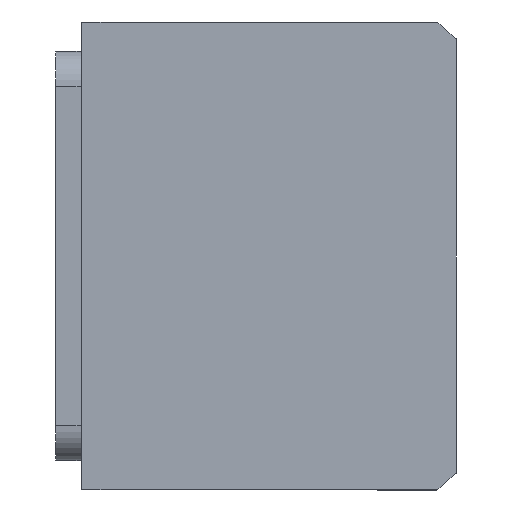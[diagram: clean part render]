
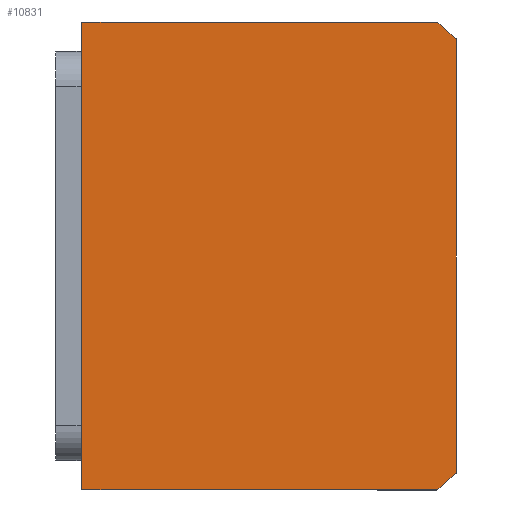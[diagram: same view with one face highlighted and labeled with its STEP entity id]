
A CAD part, front view. The second image highlights one B-rep face of the part: STEP entity #10831.
In plain terms, the highlighted planar face has unit normal (0, -1, 0) as drawn and (0, 0, -1) by its records, which use the part's own axes.
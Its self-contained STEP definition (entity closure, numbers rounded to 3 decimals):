
#429 = CARTESIAN_POINT ( 'NONE',  ( -40., -11.507, 0. ) ) ;
#490 = EDGE_CURVE ( 'NONE', #7301, #11109, #768, .T. ) ;
#610 = CARTESIAN_POINT ( 'NONE',  ( -37.094, -75.507, 0. ) ) ;
#671 = DIRECTION ( 'NONE',  ( 0., -1., 0. ) ) ;
#768 = CIRCLE ( 'NONE', #3388, 51. ) ;
#781 = VECTOR ( 'NONE', #4359, 1000. ) ;
#832 = ORIENTED_EDGE ( 'NONE', *, *, #490, .F. ) ;
#866 = LINE ( 'NONE', #13374, #11486 ) ;
#1000 = ORIENTED_EDGE ( 'NONE', *, *, #4231, .F. ) ;
#1372 = DIRECTION ( 'NONE',  ( 0., 0., 1. ) ) ;
#1423 = FACE_OUTER_BOUND ( 'NONE', #12745, .T. ) ;
#1679 = VERTEX_POINT ( 'NONE', #4987 ) ;
#2814 = CARTESIAN_POINT ( 'NONE',  ( -40., -75.507, 0. ) ) ;
#3280 = CARTESIAN_POINT ( 'NONE',  ( -40., -11.507, 0. ) ) ;
#3388 = AXIS2_PLACEMENT_3D ( 'NONE', #10523, #4395, #4353 ) ;
#3651 = ORIENTED_EDGE ( 'NONE', *, *, #5692, .F. ) ;
#4231 = EDGE_CURVE ( 'NONE', #6137, #7301, #866, .T. ) ;
#4353 = DIRECTION ( 'NONE',  ( 1., 0., 0. ) ) ;
#4359 = DIRECTION ( 'NONE',  ( -1., 0., 0. ) ) ;
#4395 = DIRECTION ( 'NONE',  ( 0., 0., 1. ) ) ;
#4450 = VERTEX_POINT ( 'NONE', #10770 ) ;
#4796 = CARTESIAN_POINT ( 'NONE',  ( 40., -11.507, 0. ) ) ;
#4987 = CARTESIAN_POINT ( 'NONE',  ( 37.094, -75.507, 0. ) ) ;
#5253 = LINE ( 'NONE', #2814, #13380 ) ;
#5307 = ORIENTED_EDGE ( 'NONE', *, *, #6480, .F. ) ;
#5525 = CARTESIAN_POINT ( 'NONE',  ( 0., -40.507, 0. ) ) ;
#5692 = EDGE_CURVE ( 'NONE', #4450, #8859, #12582, .T. ) ;
#5701 = CARTESIAN_POINT ( 'NONE',  ( -40., -72.145, 0. ) ) ;
#6137 = VERTEX_POINT ( 'NONE', #429 ) ;
#6447 = LINE ( 'NONE', #3280, #781 ) ;
#6480 = EDGE_CURVE ( 'NONE', #8859, #6137, #6447, .T. ) ;
#6593 = DIRECTION ( 'NONE',  ( 1., 0., 0. ) ) ;
#7301 = VERTEX_POINT ( 'NONE', #5701 ) ;
#8736 = PLANE ( 'NONE',  #9771 ) ;
#8778 = DIRECTION ( 'NONE',  ( 1., 0., 0. ) ) ;
#8859 = VERTEX_POINT ( 'NONE', #4796 ) ;
#9072 = EDGE_CURVE ( 'NONE', #11109, #1679, #5253, .T. ) ;
#9703 = AXIS2_PLACEMENT_3D ( 'NONE', #5525, #12931, #6593 ) ;
#9742 = VECTOR ( 'NONE', #10590, 1000. ) ;
#9771 = AXIS2_PLACEMENT_3D ( 'NONE', #12992, #1372, #8778 ) ;
#10252 = DIRECTION ( 'NONE',  ( 1., 0., 0. ) ) ;
#10523 = CARTESIAN_POINT ( 'NONE',  ( 0., -40.507, 0. ) ) ;
#10590 = DIRECTION ( 'NONE',  ( 0., 1., 0. ) ) ;
#10635 = CIRCLE ( 'NONE', #9703, 51. ) ;
#10770 = CARTESIAN_POINT ( 'NONE',  ( 40., -72.145, 0. ) ) ;
#10831 = ADVANCED_FACE ( 'NONE', ( #1423 ), #8736, .F. ) ;
#11109 = VERTEX_POINT ( 'NONE', #610 ) ;
#11486 = VECTOR ( 'NONE', #671, 1000. ) ;
#12568 = ORIENTED_EDGE ( 'NONE', *, *, #13641, .F. ) ;
#12582 = LINE ( 'NONE', #12694, #9742 ) ;
#12694 = CARTESIAN_POINT ( 'NONE',  ( 40., -11.507, 0. ) ) ;
#12745 = EDGE_LOOP ( 'NONE', ( #832, #1000, #5307, #3651, #12568, #13101 ) ) ;
#12931 = DIRECTION ( 'NONE',  ( 0., 0., 1. ) ) ;
#12992 = CARTESIAN_POINT ( 'NONE',  ( 0., 0., 0. ) ) ;
#13101 = ORIENTED_EDGE ( 'NONE', *, *, #9072, .F. ) ;
#13374 = CARTESIAN_POINT ( 'NONE',  ( -40., -11.507, 0. ) ) ;
#13380 = VECTOR ( 'NONE', #10252, 1000. ) ;
#13641 = EDGE_CURVE ( 'NONE', #1679, #4450, #10635, .T. ) ;
